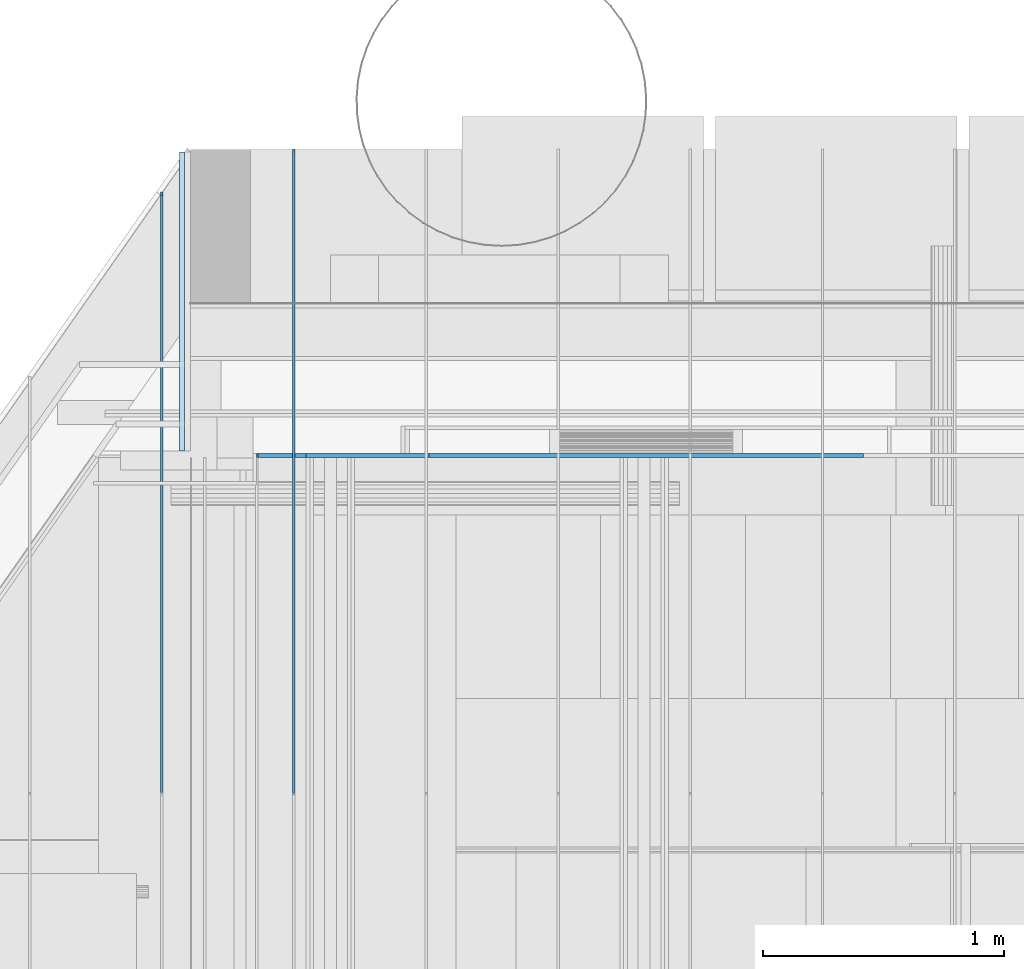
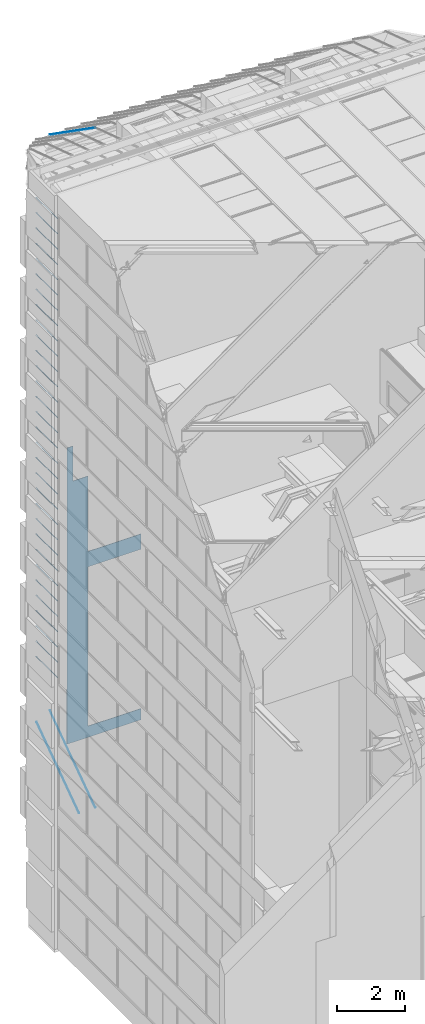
# One storey, part 273 of 583: 35 slabs.
"""IFC2X3 building model written with IfcOpenShell, lengths in metres."""

from ifc_helpers import new_model, entity, si_unit, converted_unit, derived_unit, money_unit, direction, frame, origin_with_axes, place, context, subcontext, project, spatial, faceted_brep, material, type_object, element, save


model = new_model("IFC2X3")

# Units and contexts
model_context = context("Model", 3, precision=1e-05, world=origin_with_axes(), true_north=direction((0.0, 1.0)))
body_context = subcontext(model_context, "Body", "Model", "MODEL_VIEW", scale=1.0)
ifc_project = project(units=[si_unit("LENGTHUNIT", "METRE"), si_unit("AREAUNIT", "SQUARE_METRE"), si_unit("VOLUMEUNIT", "CUBIC_METRE"), si_unit("ABSORBEDDOSEUNIT", "GRAY"), si_unit("AMOUNTOFSUBSTANCEUNIT", "MOLE"), si_unit("DOSEEQUIVALENTUNIT", "SIEVERT"), si_unit("ELECTRICCAPACITANCEUNIT", "FARAD"), si_unit("ELECTRICCHARGEUNIT", "COULOMB"), si_unit("ELECTRICCONDUCTANCEUNIT", "SIEMENS"), si_unit("ELECTRICCURRENTUNIT", "AMPERE"), si_unit("ELECTRICRESISTANCEUNIT", "OHM"), si_unit("ELECTRICVOLTAGEUNIT", "VOLT"), si_unit("ENERGYUNIT", "JOULE"), si_unit("FORCEUNIT", "NEWTON"), si_unit("FREQUENCYUNIT", "HERTZ"), si_unit("ILLUMINANCEUNIT", "LUX"), si_unit("INDUCTANCEUNIT", "HENRY"), si_unit("LUMINOUSFLUXUNIT", "LUMEN"), si_unit("LUMINOUSINTENSITYUNIT", "CANDELA"), si_unit("MAGNETICFLUXDENSITYUNIT", "TESLA"), si_unit("MAGNETICFLUXUNIT", "WEBER"), si_unit("MASSUNIT", "GRAM"), converted_unit("PLANEANGLEUNIT", "degree", entity("IfcReal", 0.0174532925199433), si_unit("PLANEANGLEUNIT", "RADIAN"), dimensions=[0, 0, 0, 0, 0, 0, 0]), si_unit("POWERUNIT", "WATT"), si_unit("PRESSUREUNIT", "PASCAL"), si_unit("RADIOACTIVITYUNIT", "BECQUEREL"), si_unit("SOLIDANGLEUNIT", "STERADIAN"), si_unit("THERMODYNAMICTEMPERATUREUNIT", "KELVIN"), si_unit("TIMEUNIT", "SECOND"), derived_unit("ACCELERATIONUNIT", [(si_unit("LENGTHUNIT", "METRE"), 1), (si_unit("TIMEUNIT", "SECOND"), -2)]), derived_unit("ANGULARVELOCITYUNIT", [(converted_unit("PLANEANGLEUNIT", "degree", entity("IfcReal", 0.0174532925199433), si_unit("PLANEANGLEUNIT", "RADIAN"), dimensions=[0, 0, 0, 0, 0, 0, 0]), 1), (si_unit("TIMEUNIT", "SECOND"), -1)]), derived_unit("CURVATUREUNIT", [(converted_unit("PLANEANGLEUNIT", "degree", entity("IfcReal", 0.0174532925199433), si_unit("PLANEANGLEUNIT", "RADIAN"), dimensions=[0, 0, 0, 0, 0, 0, 0]), 1), (si_unit("LENGTHUNIT", "METRE"), -1)]), derived_unit("DYNAMICVISCOSITYUNIT", [(si_unit("PRESSUREUNIT", "PASCAL"), 1), (si_unit("TIMEUNIT", "SECOND"), 1)]), derived_unit("HEATFLUXDENSITYUNIT", [(si_unit("POWERUNIT", "WATT"), 1), (si_unit("LENGTHUNIT", "METRE"), -2)]), derived_unit("HEATINGVALUEUNIT", [(si_unit("ENERGYUNIT", "JOULE"), 1), (si_unit("MASSUNIT", "GRAM"), -1)]), derived_unit("INTEGERCOUNTRATEUNIT", [(si_unit("TIMEUNIT", "SECOND"), -1)]), derived_unit("IONCONCENTRATIONUNIT", [(si_unit("MASSUNIT", "GRAM"), 1), (si_unit("VOLUMEUNIT", "CUBIC_METRE"), -1)]), derived_unit("ISOTHERMALMOISTURECAPACITYUNIT", [(si_unit("VOLUMEUNIT", "CUBIC_METRE"), 1), (si_unit("MASSUNIT", "GRAM"), -1)]), derived_unit("KINEMATICVISCOSITYUNIT", [(si_unit("AREAUNIT", "SQUARE_METRE"), 1), (si_unit("TIMEUNIT", "SECOND"), -1)]), derived_unit("LINEARFORCEUNIT", [(si_unit("FORCEUNIT", "NEWTON"), 1), (si_unit("LENGTHUNIT", "METRE"), -1)]), derived_unit("LINEARMOMENTUNIT", [(si_unit("FORCEUNIT", "NEWTON"), 1), (si_unit("LENGTHUNIT", "METRE"), -1)]), derived_unit("LINEARSTIFFNESSUNIT", [(si_unit("FORCEUNIT", "NEWTON"), 1), (si_unit("LENGTHUNIT", "METRE"), -1)]), derived_unit("LINEARVELOCITYUNIT", [(si_unit("LENGTHUNIT", "METRE"), 1), (si_unit("TIMEUNIT", "SECOND"), -1)]), derived_unit("LUMINOUSINTENSITYDISTRIBUTIONUNIT", [(si_unit("LUMINOUSINTENSITYUNIT", "CANDELA"), 1), (si_unit("LUMINOUSFLUXUNIT", "LUMEN"), -1)]), derived_unit("MASSDENSITYUNIT", [(si_unit("MASSUNIT", "GRAM"), 1), (si_unit("VOLUMEUNIT", "CUBIC_METRE"), -1)]), derived_unit("MASSFLOWRATEUNIT", [(si_unit("MASSUNIT", "GRAM"), 1), (si_unit("TIMEUNIT", "SECOND"), -1)]), derived_unit("MASSPERLENGTHUNIT", [(si_unit("MASSUNIT", "GRAM"), 1), (si_unit("LENGTHUNIT", "METRE"), -1)]), derived_unit("MODULUSOFELASTICITYUNIT", [(si_unit("FORCEUNIT", "NEWTON"), 1), (si_unit("AREAUNIT", "SQUARE_METRE"), -1)]), derived_unit("MODULUSOFLINEARSUBGRADEREACTIONUNIT", [(si_unit("FORCEUNIT", "NEWTON"), 1), (si_unit("LENGTHUNIT", "METRE"), -2)]), derived_unit("MODULUSOFROTATIONALSUBGRADEREACTIONUNIT", [(si_unit("FORCEUNIT", "NEWTON"), 1), (si_unit("LENGTHUNIT", "METRE"), 1)]), derived_unit("MODULUSOFSUBGRADEREACTIONUNIT", [(si_unit("FORCEUNIT", "NEWTON"), 1), (si_unit("VOLUMEUNIT", "CUBIC_METRE"), -1)]), derived_unit("MOISTUREDIFFUSIVITYUNIT", [(si_unit("VOLUMEUNIT", "CUBIC_METRE"), 1), (si_unit("TIMEUNIT", "SECOND"), -1)]), derived_unit("MOLECULARWEIGHTUNIT", [(si_unit("MASSUNIT", "GRAM"), 1), (si_unit("AMOUNTOFSUBSTANCEUNIT", "MOLE"), -1)]), derived_unit("PLANARFORCEUNIT", [(si_unit("FORCEUNIT", "NEWTON"), 1), (si_unit("LENGTHUNIT", "METRE"), -2)]), derived_unit("ROTATIONALFREQUENCYUNIT", [(si_unit("TIMEUNIT", "SECOND"), -1)]), derived_unit("ROTATIONALMASSUNIT", [(si_unit("MASSUNIT", "GRAM"), 1), (si_unit("LENGTHUNIT", "METRE"), 2)]), derived_unit("ROTATIONALSTIFFNESSUNIT", [(si_unit("FORCEUNIT", "NEWTON"), 1), (si_unit("LENGTHUNIT", "METRE"), 1), (converted_unit("PLANEANGLEUNIT", "degree", entity("IfcReal", 0.0174532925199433), si_unit("PLANEANGLEUNIT", "RADIAN"), dimensions=[0, 0, 0, 0, 0, 0, 0]), -1)]), derived_unit("SECTIONAREAINTEGRALUNIT", [(si_unit("LENGTHUNIT", "METRE"), 5)]), derived_unit("SECTIONMODULUSUNIT", [(si_unit("LENGTHUNIT", "METRE"), 3)]), derived_unit("SHEARMODULUSUNIT", [(si_unit("FORCEUNIT", "NEWTON"), 1), (si_unit("AREAUNIT", "SQUARE_METRE"), -1)]), derived_unit("SOUNDPOWERUNIT", [(si_unit("ENERGYUNIT", "JOULE"), 1), (si_unit("TIMEUNIT", "SECOND"), -1)]), derived_unit("SPECIFICHEATCAPACITYUNIT", [(si_unit("FORCEUNIT", "NEWTON"), 1), (si_unit("MASSUNIT", "GRAM"), -1), (si_unit("THERMODYNAMICTEMPERATUREUNIT", "KELVIN"), -1)]), derived_unit("TEMPERATUREGRADIENTUNIT", [(si_unit("THERMODYNAMICTEMPERATUREUNIT", "KELVIN"), 1), (si_unit("LENGTHUNIT", "METRE"), -1)]), derived_unit("THERMALADMITTANCEUNIT", [(si_unit("POWERUNIT", "WATT"), 1), (si_unit("AREAUNIT", "SQUARE_METRE"), -1), (si_unit("THERMODYNAMICTEMPERATUREUNIT", "KELVIN"), -1)]), derived_unit("THERMALCONDUCTANCEUNIT", [(si_unit("POWERUNIT", "WATT"), 1), (si_unit("LENGTHUNIT", "METRE"), -1), (si_unit("THERMODYNAMICTEMPERATUREUNIT", "KELVIN"), -1)]), derived_unit("THERMALEXPANSIONCOEFFICIENTUNIT", [(si_unit("THERMODYNAMICTEMPERATUREUNIT", "KELVIN"), -1)]), derived_unit("THERMALRESISTANCEUNIT", [(si_unit("AREAUNIT", "SQUARE_METRE"), 1), (si_unit("POWERUNIT", "WATT"), -1)]), derived_unit("THERMALTRANSMITTANCEUNIT", [(si_unit("POWERUNIT", "WATT"), 1), (si_unit("AREAUNIT", "SQUARE_METRE"), -1), (si_unit("THERMODYNAMICTEMPERATUREUNIT", "KELVIN"), -1)]), derived_unit("TORQUEUNIT", [(si_unit("FORCEUNIT", "NEWTON"), 1), (si_unit("LENGTHUNIT", "METRE"), 1)]), derived_unit("VAPORPERMEABILITYUNIT", [(si_unit("MASSUNIT", "GRAM"), 1), (si_unit("TIMEUNIT", "SECOND"), -1)]), derived_unit("VOLUMETRICFLOWRATEUNIT", [(si_unit("VOLUMEUNIT", "CUBIC_METRE"), 1), (si_unit("TIMEUNIT", "SECOND"), -1)]), derived_unit("WARPINGCONSTANTUNIT", [(si_unit("LENGTHUNIT", "METRE"), 6)]), derived_unit("WARPINGMOMENTUNIT", [(si_unit("FORCEUNIT", "NEWTON"), 1), (si_unit("LENGTHUNIT", "METRE"), 2)]), money_unit("GBP")], contexts=[model_context])

# Site, building, storey
site_placement = place(None, origin_with_axes())
site = spatial("IfcSite", under=ifc_project, at=site_placement, Name="Site", CompositionType="ELEMENT")
building_placement = place(site_placement, origin_with_axes())
building = spatial("IfcBuilding", under=site, at=building_placement, Name="Building01", CompositionType="ELEMENT")
storey_placement = place(building_placement, frame((0.0, 0.0, 20.78), z_axis=(0.0, 0.0, 1.0), x_axis=(1.0, 0.0, 0.0)))
storey = spatial("IfcBuildingStorey", under=building, at=storey_placement, Name="RL", CompositionType="ELEMENT", Elevation=20.78)

# Slabs
ifc_material_1 = material(Name="A_BSUK_CeilingSoffitFinishes_Suspended")
slab_type = type_object("IfcSlabType", Name="A-FloorsSlabs A_BSUK_Slabs", PredefinedType="FLOOR")
placement = place(storey_placement, frame((0.0, 0.0, -20.78), z_axis=(0.0, 0.0, 1.0), x_axis=(1.0, 0.0, 0.0)))
element("IfcSlab", 1, at=placement, inside=storey, type_object=slab_type, material=ifc_material_1, Name="A-FloorsSlabs A_BSUK_Slabs", ObjectType="CompoundSlabLeaf", context=body_context, shape_type="Brep", body=[
    faceted_brep([(4.1884, 20.18, 12.15), (4.1884, 20.195, 12.15), (3.68, 20.195, 12.15), (3.68, 20.18, 12.15), (4.1884, 20.18, 9.45), (4.1884, 20.195, 9.45), (5.9884, 20.18, 9.45), (5.9884, 20.195, 9.45), (5.9884, 20.18, 8.9), (5.9884, 20.195, 8.9), (4.1884, 20.18, 8.9), (4.1884, 20.195, 8.9), (4.188339, 20.18, 8.9), (4.188339, 20.195, 8.9), (4.1884, 20.18, 3.2), (4.1884, 20.195, 3.2), (5.9884, 20.18, 3.2), (5.9884, 20.195, 3.2), (5.9884, 20.18, 2.798126), (5.9884, 20.195, 2.798126), (3.474708, 20.18, 2.798126), (3.474708, 20.195, 2.798126), (3.474708, 20.18, 4.760024), (3.474708, 20.195, 4.760024), (3.479939, 20.18, 4.760024), (3.479939, 20.195, 4.760024), (3.479939, 20.18, 13.4), (3.479939, 20.195, 13.4), (3.68, 20.18, 13.4), (3.68, 20.195, 13.4), (3.68, 20.18, 12.55), (3.68, 20.195, 12.55)], [[[0, 1, 2, 3]], [[4, 5, 1, 0]], [[6, 7, 5, 4]], [[8, 9, 7, 6]], [[10, 11, 9, 8]], [[12, 13, 11, 10]], [[14, 15, 13, 12]], [[16, 17, 15, 14]], [[18, 19, 17, 16]], [[20, 21, 19, 18]], [[22, 23, 21, 20]], [[24, 25, 23, 22]], [[26, 27, 25, 24]], [[28, 29, 27, 26]], [[30, 31, 29, 28]], [[3, 2, 31, 30]], [[1, 5, 7, 9, 11, 13, 15, 17, 19, 21, 23, 25, 27, 29, 31, 2]], [[3, 30, 28, 26, 24, 22, 20, 18, 16, 14, 12, 10, 8, 6, 4, 0]]]),
])
ifc_material_2 = material(Name="A_BSUK_Roofs")
for number, where, z_axis, x_axis, name in (
    (2, (3.174939, 20.205, -6.737476), (0.0, 1.0, 0.0), (0.0, 0.0, 1.0), "A-FloorsSlabs A_BSUK_Slabs"),
    (3, (3.174939, 20.205, -6.189976), (0.0, 1.0, 0.0), (0.0, 0.0, 1.0), "A-FloorsSlabs A_BSUK_Slabs"),
    (4, (3.174939, 20.205, -5.642476), (0.0, 1.0, 0.0), (0.0, 0.0, 1.0), "A-FloorsSlabs A_BSUK_Slabs"),
    (5, (3.174939, 20.205, -5.094976), (0.0, 1.0, 0.0), (0.0, 0.0, 1.0), "A-FloorsSlabs A_BSUK_Slabs"),
    (6, (3.174939, 20.205, -2.904976), (0.0, 1.0, 0.0), (0.0, 0.0, 1.0), "A-FloorsSlabs A_BSUK_Slabs"),
    (7, (3.174939, 20.205, -3.452476), (0.0, 1.0, 0.0), (0.0, 0.0, 1.0), "A-FloorsSlabs A_BSUK_Slabs"),
    (8, (3.174939, 20.205, -3.999976), (0.0, 1.0, 0.0), (0.0, 0.0, 1.0), "A-FloorsSlabs A_BSUK_Slabs"),
    (9, (3.174939, 20.205, -4.547476), (0.0, 1.0, 0.0), (0.0, 0.0, 1.0), "A-FloorsSlabs A_BSUK_Slabs"),
    (10, (3.174939, 20.205, -0.714976), (0.0, 1.0, 0.0), (0.0, 0.0, 1.0), "A-FloorsSlabs A_BSUK_Slabs"),
    (11, (3.174939, 20.205, -1.262476), (0.0, 1.0, 0.0), (0.0, 0.0, 1.0), "A-FloorsSlabs A_BSUK_Slabs"),
    (12, (3.174939, 20.205, -1.809976), (0.0, 1.0, 0.0), (0.0, 0.0, 1.0), "A-FloorsSlabs A_BSUK_Slabs"),
    (13, (3.174939, 20.205, -2.357476), (0.0, 1.0, 0.0), (0.0, 0.0, 1.0), "A-FloorsSlabs A_BSUK_Slabs"),
    (14, (3.174939, 20.205, 0.927524), (0.0, 1.0, 0.0), (0.0, 0.0, 1.0), "A-FloorsSlabs A_BSUK_Slabs"),
    (15, (3.174939, 20.205, 0.380024), (0.0, 1.0, 0.0), (0.0, 0.0, 1.0), "A-FloorsSlabs A_BSUK_Slabs"),
    (16, (3.174939, 20.205, -0.167476), (0.0, 1.0, 0.0), (0.0, 0.0, 1.0), "A-FloorsSlabs A_BSUK_Slabs"),
):
    element("IfcSlab", number, at=place(storey_placement, frame(where, z_axis=z_axis, x_axis=x_axis)), inside=storey, type_object=slab_type, material=ifc_material_2, Name=name, ObjectType="A-FloorsSlabs A_BSUK_Slabs", context=body_context, shape_type="Brep", body=[
        faceted_brep([(0.0, 0.0, 0.0), (0.0, -0.02, 0.0), (0.0, -0.02, 1.239928), (0.0, 0.0, 1.239928), (0.01, 0.0, 0.0), (0.01, -0.02, 0.0), (0.01, 0.0, 1.239928), (0.01, -0.02, 1.239928)], [[[0, 1, 2, 3]], [[4, 5, 1, 0]], [[6, 7, 5, 4]], [[3, 2, 7, 6]], [[1, 5, 7, 2]], [[3, 6, 4, 0]]]),
    ])
for number, where, z_axis, x_axis, name in (
    (17, (3.174939, 20.205, -7.822476), (0.0, 1.0, 0.0), (0.0, 0.0, 1.0), "A-FloorsSlabs A_BSUK_Slabs"),
    (18, (3.174939, 20.205, -8.369976), (0.0, 1.0, 0.0), (0.0, 0.0, 1.0), "A-FloorsSlabs A_BSUK_Slabs"),
    (19, (3.174939, 20.205, -8.917476), (0.0, 1.0, 0.0), (0.0, 0.0, 1.0), "A-FloorsSlabs A_BSUK_Slabs"),
    (20, (3.174939, 20.205, -9.464976), (0.0, 1.0, 0.0), (0.0, 0.0, 1.0), "A-FloorsSlabs A_BSUK_Slabs"),
    (21, (3.174939, 20.205, -10.012476), (0.0, 1.0, 0.0), (0.0, 0.0, 1.0), "A-FloorsSlabs A_BSUK_Slabs"),
    (22, (3.174939, 20.205, -10.559976), (0.0, 1.0, 0.0), (0.0, 0.0, 1.0), "A-FloorsSlabs A_BSUK_Slabs"),
    (23, (3.174939, 20.205, -11.107476), (0.0, 1.0, 0.0), (0.0, 0.0, 1.0), "A-FloorsSlabs A_BSUK_Slabs"),
    (24, (3.174939, 20.205, -11.654976), (0.0, 1.0, 0.0), (0.0, 0.0, 1.0), "A-FloorsSlabs A_BSUK_Slabs"),
    (25, (3.174939, 20.205, -12.202476), (0.0, 1.0, 0.0), (0.0, 0.0, 1.0), "A-FloorsSlabs A_BSUK_Slabs"),
    (26, (3.174939, 20.205, -12.749976), (0.0, 1.0, 0.0), (0.0, 0.0, 1.0), "A-FloorsSlabs A_BSUK_Slabs"),
    (27, (3.174939, 20.205, -13.297476), (0.0, 1.0, 0.0), (0.0, 0.0, 1.0), "A-FloorsSlabs A_BSUK_Slabs"),
    (28, (3.174939, 20.205, -13.844976), (0.0, 1.0, 0.0), (0.0, 0.0, 1.0), "A-FloorsSlabs A_BSUK_Slabs"),
    (29, (3.174939, 20.205, -14.392476), (0.0, 1.0, 0.0), (0.0, 0.0, 1.0), "A-FloorsSlabs A_BSUK_Slabs"),
    (30, (3.174939, 20.205, -14.939976), (0.0, 1.0, 0.0), (0.0, 0.0, 1.0), "A-FloorsSlabs A_BSUK_Slabs"),
    (31, (3.174939, 20.205, -15.487476), (0.0, 1.0, 0.0), (0.0, 0.0, 1.0), "A-FloorsSlabs A_BSUK_Slabs"),
):
    element("IfcSlab", number, at=place(storey_placement, frame(where, z_axis=z_axis, x_axis=x_axis)), inside=storey, type_object=slab_type, material=ifc_material_2, Name=name, ObjectType="A-FloorsSlabs A_BSUK_Slabs", context=body_context, shape_type="Brep", body=[
        faceted_brep([(0.0, 0.0, 1.239928), (0.0, -0.02, 1.239928), (0.0, -0.02, 0.0), (0.0, 0.0, 0.0), (-0.01, -0.02, 0.0), (-0.01, 0.0, 0.0), (-0.01, -0.02, 1.239928), (-0.01, 0.0, 1.239928)], [[[0, 1, 2, 3]], [[3, 2, 4, 5]], [[5, 4, 6, 7]], [[7, 6, 1, 0]], [[1, 6, 4, 2]], [[3, 5, 7, 0]]]),
    ])
slab_2_placement = place(storey_placement, frame((3.623975, 18.780461, -19.44574), z_axis=(0.0, 1.0, 0.0), x_axis=(0.0, 0.0, 1.0)))
element("IfcSlab", 32, at=slab_2_placement, inside=storey, type_object=slab_type, material=ifc_material_2, Name="A-FloorsSlabs A_BSUK_Slabs", ObjectType="A-FloorsSlabs A_BSUK_Slabs", context=body_context, shape_type="Brep", body=[
    faceted_brep([(1.86568, 0.0, 2.664467), (1.849297, 0.0, 2.675938), (-0.016383, 0.0, 0.011472), (0.0, 0.0, 0.0), (-0.016383, 0.01, 0.011472), (0.0, 0.01, 0.0), (1.849297, 0.01, 2.675938), (1.86568, 0.01, 2.664467)], [[[0, 1, 2, 3]], [[3, 2, 4, 5]], [[5, 4, 6, 7]], [[7, 6, 1, 0]], [[1, 6, 4, 2]], [[3, 5, 7, 0]]]),
])
slab_3_placement = place(storey_placement, frame((3.086475, 18.780461, -19.44574), z_axis=(0.0, 1.0, 0.0), x_axis=(-1.0, 0.0, 0.0)))
element("IfcSlab", 33, at=slab_3_placement, inside=storey, type_object=slab_type, material=ifc_material_2, Name="A-FloorsSlabs A_BSUK_Slabs", ObjectType="A-FloorsSlabs A_BSUK_Slabs", context=body_context, shape_type="Brep", body=[
    faceted_brep([(0.0, 0.0, 0.0), (0.0, -0.016383, 0.011471), (0.0, 1.725072, 2.498526), (0.0, 1.741455, 2.487055), (0.01, 0.0, 0.0), (0.01, -0.016383, 0.011471), (0.01, 1.741455, 2.487055), (0.01, 1.725072, 2.498526)], [[[0, 1, 2, 3]], [[4, 5, 1, 0]], [[6, 7, 5, 4]], [[3, 2, 7, 6]], [[1, 5, 7, 2]], [[3, 6, 4, 0]]]),
])
element("IfcSlab", 34, at=placement, inside=storey, type_object=slab_type, material=ifc_material_2, Name="A-FloorsSlabs A_BSUK_Slabs", ObjectType="CompoundSlabLeaf", context=body_context, shape_type="Brep", body=[
    faceted_brep([(3.174939, 20.205, 13.495024), (3.154939, 20.205, 13.495024), (3.154939, 21.444928, 13.495024), (3.174939, 21.444928, 13.495024), (3.174939, 20.205, 13.505024), (3.154939, 20.205, 13.505024), (3.174939, 21.444928, 13.505024), (3.154939, 21.444928, 13.505024)], [[[0, 1, 2, 3]], [[4, 5, 1, 0]], [[6, 7, 5, 4]], [[3, 2, 7, 6]], [[1, 5, 7, 2]], [[3, 6, 4, 0]]]),
])
element("IfcSlab", 35, at=placement, inside=storey, type_object=slab_type, material=ifc_material_2, Name="A-FloorsSlabs A_BSUK_Slabs", ObjectType="CompoundSlabLeaf", context=body_context, shape_type="Brep", body=[
    faceted_brep([(3.623975, 18.780461, 25.64574), (3.623975, 18.791933, 25.662123), (3.623975, 21.456399, 23.796444), (3.623975, 21.444928, 23.780061), (3.633975, 18.780461, 25.64574), (3.633975, 18.791933, 25.662123), (3.633975, 21.444928, 23.780061), (3.633975, 21.456399, 23.796444)], [[[0, 1, 2, 3]], [[4, 5, 1, 0]], [[6, 7, 5, 4]], [[3, 2, 7, 6]], [[1, 5, 7, 2]], [[3, 6, 4, 0]]]),
])

save(model, "model.ifc")
